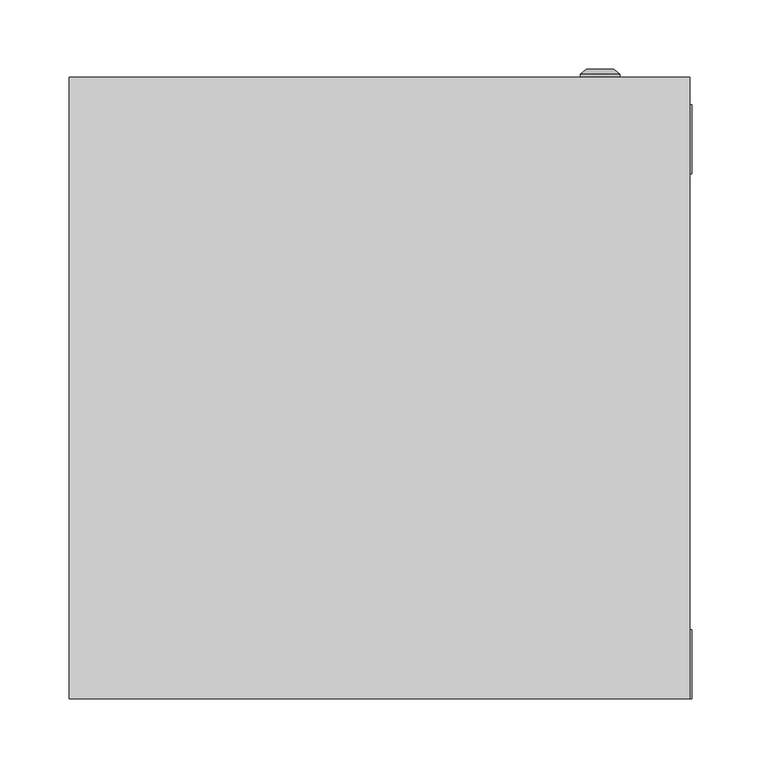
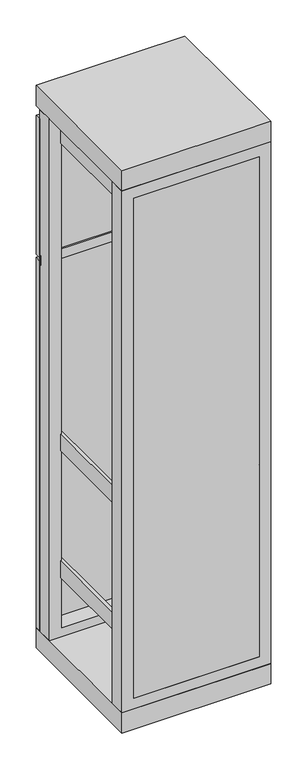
"""IFC4 building model written with IfcOpenShell, lengths in millimetres: proxy geometry, ВРУ-2 : ВРУ-2_1800х450х450."""

from ifc_helpers import new_model, si_unit, frame, origin, origin_with_axes, place, context, project, spatial, polyline, circle_curve, outline, extrude, source, transform, mapped, element, save
from ifc_brep_helpers import plane_surface, cylinder_surface, revolved_surface, advanced_brep


def electrical_equipment_7cf6aeab(model_context):
    return source(origin(), model_context, "Body", "SolidModel", [
        extrude(outline(polyline([(225.0, 425.0), (-225.0, 425.0), (-225.0, 430.0), (225.0, 430.0), (225.0, 425.0)])), frame((0.0, 0.0, 1240.0), z_axis=(0.0, 0.0, 1.0), x_axis=(1.0, 0.0, 0.0)), (0.0, 0.0, 1.0), 30.0),
        advanced_brep(
        [(145.669873, 450.0, 1480.0), (174.330127, 450.0, 1480.0), (160.0, 450.0, 1480.0), (145.669873, 452.366592, 1480.0), (174.330127, 452.366592, 1480.0), (150.0, 456.0, 1480.0), (170.0, 456.0, 1480.0), (158.1080471, 456.0, 1480.0), (161.8919529, 456.0, 1480.0), (158.1080471, 454.9822294, 1480.0), (161.8919529, 454.9822294, 1480.0), (160.0, 454.9822294, 1480.0)],
        [
            (0, 1, circle_curve(frame((160.0, 450.0, 1480.0), z_axis=(0.0, -1.0, 0.0), x_axis=(1.0, 0.0, 0.0)), 14.330127)),
            (1, 2),
            (2, 0),
            (1, 0, circle_curve(frame((160.0, 450.0, 1480.0), z_axis=(0.0, -1.0, 0.0), x_axis=(1.0, 0.0, 0.0)), 14.330127)),
            (3, 4, circle_curve(frame((160.0, 452.366592, 1480.0), z_axis=(0.0, -1.0, 0.0), x_axis=(1.0, 0.0, 0.0)), 14.330127)),
            (4, 1),
            (0, 3),
            (4, 3, circle_curve(frame((160.0, 452.366592, 1480.0), z_axis=(0.0, -1.0, 0.0), x_axis=(1.0, 0.0, 0.0)), 14.330127)),
            (5, 6, circle_curve(frame((160.0, 456.0, 1480.0), z_axis=(0.0, -1.0, 0.0), x_axis=(1.0, 0.0, 0.0)), 10.0)),
            (6, 4),
            (3, 5),
            (6, 5, circle_curve(frame((160.0, 456.0, 1480.0), z_axis=(0.0, -1.0, 0.0), x_axis=(1.0, 0.0, 0.0)), 10.0)),
            (7, 8, circle_curve(frame((160.0, 456.0, 1480.0), z_axis=(0.0, -1.0, 0.0), x_axis=(1.0, 0.0, 0.0)), 1.8919529)),
            (8, 6),
            (5, 7),
            (8, 7, circle_curve(frame((160.0, 456.0, 1480.0), z_axis=(0.0, -1.0, 0.0), x_axis=(1.0, 0.0, 0.0)), 1.8919529)),
            (9, 10, circle_curve(frame((160.0, 454.9822294, 1480.0), z_axis=(0.0, -1.0, 0.0), x_axis=(1.0, 0.0, 0.0)), 1.8919529)),
            (10, 8),
            (7, 9),
            (10, 9, circle_curve(frame((160.0, 454.9822294, 1480.0), z_axis=(0.0, -1.0, 0.0), x_axis=(1.0, 0.0, 0.0)), 1.8919529)),
            (11, 10),
            (9, 11),
        ],
        [
            plane_surface(frame((160.0, 450.0, 1480.0), z_axis=(0.0, -1.0, 0.0), x_axis=(1.0, 0.0, 0.0))),
            cylinder_surface(frame((160.0, 463.1348851, 1480.0), z_axis=(0.0, 1.0, 0.0), x_axis=(1.0, 0.0, 0.0)), 14.330127),
            revolved_surface(polyline([(174.330127, 452.366592, 1480.0), (170.0, 456.0, 1480.0)]), (160.0, 463.1348851, 1480.0), (0.0, 1.0, 0.0)),
            plane_surface(frame((160.0, 456.0, 1480.0), z_axis=(0.0, 1.0, 0.0), x_axis=(1.0, 0.0, 0.0))),
            revolved_surface(polyline([(161.8919529, 456.0, 1480.0), (161.8919529, 454.9822294, 1480.0)]), (160.0, 463.1348851, 1480.0), (0.0, 1.0, 0.0)),
            plane_surface(frame((160.0, 454.9822294, 1480.0), z_axis=(0.0, 1.0, 0.0), x_axis=(1.0, 0.0, 0.0))),
        ],
        [
            (0, [[1, 2, 3]]),
            (0, [[4, -3, -2]]),
            (1, [[5, 6, -1, 7]]),
            (1, [[8, -7, -4, -6]]),
            (2, [[9, 10, -5, 11]]),
            (2, [[12, -11, -8, -10]]),
            (3, [[13, 14, -9, 15]]),
            (3, [[16, -15, -12, -14]]),
            (4, [[17, 18, -13, 19]]),
            (4, [[20, -19, -16, -18]]),
            (5, [[21, -17, 22]]),
            (5, [[-22, -20, -21]]),
        ],
    ),
        extrude(outline(polyline([(225.0, 430.0), (-225.0, 430.0), (-225.0, 450.0), (225.0, 450.0), (225.0, 430.0)])), frame((0.0, 0.0, 1260.0), z_axis=(0.0, 0.0, 1.0), x_axis=(1.0, 0.0, 0.0)), (0.0, 0.0, 1.0), 445.0),
        extrude(outline(polyline([(190.8707865, 0.0), (-188.3426966, 0.0), (-188.3426966, 10.0), (190.8707865, 10.0), (190.8707865, 0.0)])), frame((0.0, 0.0, 99.1378449), z_axis=(0.0, 0.0, 1.0), x_axis=(1.0, 0.0, 0.0)), (0.0, 0.0, 1.0), 1599.6160511),
        extrude(outline(polyline([(-180.8707865, 125.9831461), (-140.8707865, 125.9831461), (-140.8707865, 93.1179775), (-143.8707865, 93.1179775), (-143.8707865, 122.9831461), (-177.8707865, 122.9831461), (-177.8707865, 93.1179775), (-180.8707865, 93.1179775), (-180.8707865, 125.9831461)])), frame((0.0, 0.0, 189.6067416), z_axis=(0.0, 0.0, 1.0), x_axis=(1.0, 0.0, 0.0)), (0.0, 0.0, 1.0), 1545.3932584),
        extrude(outline(polyline([(140.8707865, 125.9831461), (180.8707865, 125.9831461), (180.8707865, 93.1179775), (177.8707865, 93.1179775), (177.8707865, 122.9831461), (143.8707865, 122.9831461), (143.8707865, 93.1179775), (140.8707865, 93.1179775), (140.8707865, 125.9831461)])), frame((0.0, 0.0, 189.6067416), z_axis=(0.0, 0.0, 1.0), x_axis=(1.0, 0.0, 0.0)), (0.0, 0.0, 1.0), 1545.3932584),
        extrude(outline(polyline([(-180.8707865, 10.0), (-190.8707865, 10.0), (-190.8707865, 430.0), (-180.8707865, 430.0), (-180.8707865, 10.0)])), frame((0.0, 0.0, 1645.5966059), z_axis=(0.0, 0.0, 1.0), x_axis=(1.0, 0.0, 0.0)), (0.0, 0.0, 1.0), 53.0898876),
        extrude(outline(polyline([(190.8707865, 10.0), (180.8707865, 10.0), (180.8707865, 430.0), (190.8707865, 430.0), (190.8707865, 10.0)])), frame((0.0, 0.0, 1645.5966059), z_axis=(0.0, 0.0, 1.0), x_axis=(1.0, 0.0, 0.0)), (0.0, 0.0, 1.0), 53.0898876),
        extrude(outline(polyline([(-180.8707865, 10.0), (-190.8707865, 10.0), (-190.8707865, 430.0), (-180.8707865, 430.0), (-180.8707865, 10.0)])), frame((0.0, 0.0, 255.5966059), z_axis=(0.0, 0.0, 1.0), x_axis=(1.0, 0.0, 0.0)), (0.0, 0.0, 1.0), 53.0898876),
        extrude(outline(polyline([(190.8707865, 10.0), (180.8707865, 10.0), (180.8707865, 430.0), (190.8707865, 430.0), (190.8707865, 10.0)])), frame((0.0, 0.0, 255.5966059), z_axis=(0.0, 0.0, 1.0), x_axis=(1.0, 0.0, 0.0)), (0.0, 0.0, 1.0), 53.0898876),
        extrude(outline(polyline([(-180.8707865, 10.0), (-190.8707865, 10.0), (-190.8707865, 430.0), (-180.8707865, 430.0), (-180.8707865, 10.0)])), frame((0.0, 0.0, 660.5966059), z_axis=(0.0, 0.0, 1.0), x_axis=(1.0, 0.0, 0.0)), (0.0, 0.0, 1.0), 53.0898876),
        extrude(outline(polyline([(190.8707865, 0.0), (180.8707865, 0.0), (180.8707865, 430.0), (190.8707865, 430.0), (190.8707865, 0.0)])), frame((0.0, 0.0, 660.5966059), z_axis=(0.0, 0.0, 1.0), x_axis=(1.0, 0.0, 0.0)), (0.0, 0.0, 1.0), 53.0898876),
        extrude(outline(polyline([(1734.1471543, -225.0), (65.0187804, -225.0), (65.0187804, 226.2640449), (1734.1471543, 226.2640449), (1734.1471543, -225.0)]), holes=[polyline([(99.1378449, 190.8707865), (99.1378449, -188.3426966), (1698.7538959, -188.3426966), (1698.7538959, 190.8707865), (99.1378449, 190.8707865)])]), frame((0.0, 0.0, 0.0), z_axis=(0.0, 1.0, 0.0), x_axis=(0.0, 0.0, 1.0)), (0.0, 0.0, 1.0), 50.0),
        extrude(outline(polyline([(1735.0, -225.0), (65.0187804, -225.0), (65.0187804, 226.2640449), (1735.0, 226.2640449), (1735.0, -225.0)]), holes=[polyline([(93.3701084, 190.8707865), (93.3701084, -188.3426966), (1692.9861595, -188.3426966), (1692.9861595, 190.8707865), (93.3701084, 190.8707865)])]), frame((0.0, 380.0, 0.0), z_axis=(0.0, 1.0, 0.0), x_axis=(0.0, 0.0, 1.0)), (0.0, 0.0, 1.0), 50.0),
        extrude(outline(polyline([(225.0067809, 450.0), (225.0067809, 0.0), (-225.0, 0.0), (-225.0, 450.0), (225.0067809, 450.0)])), frame((0.0, 0.0, 1735.0), z_axis=(0.0, 0.0, 1.0), x_axis=(1.0, 0.0, 0.0)), (0.0, 0.0, 1.0), 65.0),
        advanced_brep(
        [(145.669873, 450.0, 375.0), (174.330127, 450.0, 375.0), (160.0, 450.0, 375.0), (145.669873, 452.366592, 375.0), (174.330127, 452.366592, 375.0), (150.0, 456.0, 375.0), (170.0, 456.0, 375.0), (158.1080471, 456.0, 375.0), (161.8919529, 456.0, 375.0), (158.1080471, 454.9822294, 375.0), (161.8919529, 454.9822294, 375.0), (160.0, 454.9822294, 375.0)],
        [
            (0, 1, circle_curve(frame((160.0, 450.0, 375.0), z_axis=(0.0, -1.0, 0.0), x_axis=(1.0, 0.0, 0.0)), 14.330127)),
            (1, 2),
            (2, 0),
            (1, 0, circle_curve(frame((160.0, 450.0, 375.0), z_axis=(0.0, -1.0, 0.0), x_axis=(1.0, 0.0, 0.0)), 14.330127)),
            (3, 4, circle_curve(frame((160.0, 452.366592, 375.0), z_axis=(0.0, -1.0, 0.0), x_axis=(1.0, 0.0, 0.0)), 14.330127)),
            (4, 1),
            (0, 3),
            (4, 3, circle_curve(frame((160.0, 452.366592, 375.0), z_axis=(0.0, -1.0, 0.0), x_axis=(1.0, 0.0, 0.0)), 14.330127)),
            (5, 6, circle_curve(frame((160.0, 456.0, 375.0), z_axis=(0.0, -1.0, 0.0), x_axis=(1.0, 0.0, 0.0)), 10.0)),
            (6, 4),
            (3, 5),
            (6, 5, circle_curve(frame((160.0, 456.0, 375.0), z_axis=(0.0, -1.0, 0.0), x_axis=(1.0, 0.0, 0.0)), 10.0)),
            (7, 8, circle_curve(frame((160.0, 456.0, 375.0), z_axis=(0.0, -1.0, 0.0), x_axis=(1.0, 0.0, 0.0)), 1.8919529)),
            (8, 6),
            (5, 7),
            (8, 7, circle_curve(frame((160.0, 456.0, 375.0), z_axis=(0.0, -1.0, 0.0), x_axis=(1.0, 0.0, 0.0)), 1.8919529)),
            (9, 10, circle_curve(frame((160.0, 454.9822294, 375.0), z_axis=(0.0, -1.0, 0.0), x_axis=(1.0, 0.0, 0.0)), 1.8919529)),
            (10, 8),
            (7, 9),
            (10, 9, circle_curve(frame((160.0, 454.9822294, 375.0), z_axis=(0.0, -1.0, 0.0), x_axis=(1.0, 0.0, 0.0)), 1.8919529)),
            (11, 10),
            (9, 11),
        ],
        [
            plane_surface(frame((160.0, 450.0, 375.0), z_axis=(0.0, -1.0, 0.0), x_axis=(1.0, 0.0, 0.0))),
            cylinder_surface(frame((160.0, 463.1348851, 375.0), z_axis=(0.0, 1.0, 0.0), x_axis=(1.0, 0.0, 0.0)), 14.330127),
            revolved_surface(polyline([(174.330127, 452.366592, 375.0), (170.0, 456.0, 375.0)]), (160.0, 463.1348851, 375.0), (0.0, 1.0, 0.0)),
            plane_surface(frame((160.0, 456.0, 375.0), z_axis=(0.0, 1.0, 0.0), x_axis=(1.0, 0.0, 0.0))),
            revolved_surface(polyline([(161.8919529, 456.0, 375.0), (161.8919529, 454.9822294, 375.0)]), (160.0, 463.1348851, 375.0), (0.0, 1.0, 0.0)),
            plane_surface(frame((160.0, 454.9822294, 375.0), z_axis=(0.0, 1.0, 0.0), x_axis=(1.0, 0.0, 0.0))),
        ],
        [
            (0, [[1, 2, 3]]),
            (0, [[4, -3, -2]]),
            (1, [[5, 6, -1, 7]]),
            (1, [[8, -7, -4, -6]]),
            (2, [[9, 10, -5, 11]]),
            (2, [[12, -11, -8, -10]]),
            (3, [[13, 14, -9, 15]]),
            (3, [[16, -15, -12, -14]]),
            (4, [[17, 18, -13, 19]]),
            (4, [[20, -19, -16, -18]]),
            (5, [[21, -17, 22]]),
            (5, [[-22, -20, -21]]),
        ],
    ),
        advanced_brep(
        [(145.669873, 450.0, 880.0), (174.330127, 450.0, 880.0), (160.0, 450.0, 880.0), (145.669873, 452.366592, 880.0), (174.330127, 452.366592, 880.0), (150.0, 456.0, 880.0), (170.0, 456.0, 880.0), (158.1080471, 456.0, 880.0), (161.8919529, 456.0, 880.0), (158.1080471, 454.9822294, 880.0), (161.8919529, 454.9822294, 880.0), (160.0, 454.9822294, 880.0)],
        [
            (0, 1, circle_curve(frame((160.0, 450.0, 880.0), z_axis=(0.0, -1.0, 0.0), x_axis=(1.0, 0.0, 0.0)), 14.330127)),
            (1, 2),
            (2, 0),
            (1, 0, circle_curve(frame((160.0, 450.0, 880.0), z_axis=(0.0, -1.0, 0.0), x_axis=(1.0, 0.0, 0.0)), 14.330127)),
            (3, 4, circle_curve(frame((160.0, 452.366592, 880.0), z_axis=(0.0, -1.0, 0.0), x_axis=(1.0, 0.0, 0.0)), 14.330127)),
            (4, 1),
            (0, 3),
            (4, 3, circle_curve(frame((160.0, 452.366592, 880.0), z_axis=(0.0, -1.0, 0.0), x_axis=(1.0, 0.0, 0.0)), 14.330127)),
            (5, 6, circle_curve(frame((160.0, 456.0, 880.0), z_axis=(0.0, -1.0, 0.0), x_axis=(1.0, 0.0, 0.0)), 10.0)),
            (6, 4),
            (3, 5),
            (6, 5, circle_curve(frame((160.0, 456.0, 880.0), z_axis=(0.0, -1.0, 0.0), x_axis=(1.0, 0.0, 0.0)), 10.0)),
            (7, 8, circle_curve(frame((160.0, 456.0, 880.0), z_axis=(0.0, -1.0, 0.0), x_axis=(1.0, 0.0, 0.0)), 1.8919529)),
            (8, 6),
            (5, 7),
            (8, 7, circle_curve(frame((160.0, 456.0, 880.0), z_axis=(0.0, -1.0, 0.0), x_axis=(1.0, 0.0, 0.0)), 1.8919529)),
            (9, 10, circle_curve(frame((160.0, 454.9822294, 880.0), z_axis=(0.0, -1.0, 0.0), x_axis=(1.0, 0.0, 0.0)), 1.8919529)),
            (10, 8),
            (7, 9),
            (10, 9, circle_curve(frame((160.0, 454.9822294, 880.0), z_axis=(0.0, -1.0, 0.0), x_axis=(1.0, 0.0, 0.0)), 1.8919529)),
            (11, 10),
            (9, 11),
        ],
        [
            plane_surface(frame((160.0, 450.0, 880.0), z_axis=(0.0, -1.0, 0.0), x_axis=(1.0, 0.0, 0.0))),
            cylinder_surface(frame((160.0, 463.1348851, 880.0), z_axis=(0.0, 1.0, 0.0), x_axis=(1.0, 0.0, 0.0)), 14.330127),
            revolved_surface(polyline([(174.330127, 452.366592, 880.0), (170.0, 456.0, 880.0)]), (160.0, 463.1348851, 880.0), (0.0, 1.0, 0.0)),
            plane_surface(frame((160.0, 456.0, 880.0), z_axis=(0.0, 1.0, 0.0), x_axis=(1.0, 0.0, 0.0))),
            revolved_surface(polyline([(161.8919529, 456.0, 880.0), (161.8919529, 454.9822294, 880.0)]), (160.0, 463.1348851, 880.0), (0.0, 1.0, 0.0)),
            plane_surface(frame((160.0, 454.9822294, 880.0), z_axis=(0.0, 1.0, 0.0), x_axis=(1.0, 0.0, 0.0))),
        ],
        [
            (0, [[1, 2, 3]]),
            (0, [[4, -3, -2]]),
            (1, [[5, 6, -1, 7]]),
            (1, [[8, -7, -4, -6]]),
            (2, [[9, 10, -5, 11]]),
            (2, [[12, -11, -8, -10]]),
            (3, [[13, 14, -9, 15]]),
            (3, [[16, -15, -12, -14]]),
            (4, [[17, 18, -13, 19]]),
            (4, [[20, -19, -16, -18]]),
            (5, [[21, -17, 22]]),
            (5, [[-22, -20, -21]]),
        ],
    ),
        extrude(outline(polyline([(225.0067809, 450.0), (225.0067809, 0.0), (-225.0, 0.0), (-225.0, 450.0), (225.0067809, 450.0)])), origin_with_axes(), (0.0, 0.0, 1.0), 65.0187804),
        extrude(outline(polyline([(225.0, 430.0), (-225.0, 430.0), (-225.0, 450.0), (225.0, 450.0), (225.0, 430.0)])), frame((0.0, 0.0, 65.0187804), z_axis=(0.0, 0.0, 1.0), x_axis=(1.0, 0.0, 0.0)), (0.0, 0.0, 1.0), 1184.9812196),
    ])


if __name__ == "__main__":
    model = new_model("IFC4")
    model_context = context("Model", 3, world=origin())
    ifc_project = project(units=[si_unit("LENGTHUNIT", "METRE", prefix="MILLI")], contexts=[model_context])
    site = spatial("IfcSite", under=ifc_project)
    building = spatial("IfcBuilding", under=site)
    placement = place(None, origin())
    electrical_equipment_shape = electrical_equipment_7cf6aeab(model_context)
    element("IfcBuildingElementProxy", 1, Name="ВРУ-2 : ВРУ-2_1800х450х450", ObjectType="ВРУ-2 : ВРУ-2_1800х450х450", at=placement, inside=building, context=model_context, shape_type="MappedRepresentation", body=[
        mapped(electrical_equipment_shape, transform((0.0, 0.0, 0.0), x_axis=(1.0, 0.0, 0.0), y_axis=(0.0, 1.0, 0.0), z_axis=(0.0, 0.0, 1.0))),
    ])
    save(model, "model.ifc")
